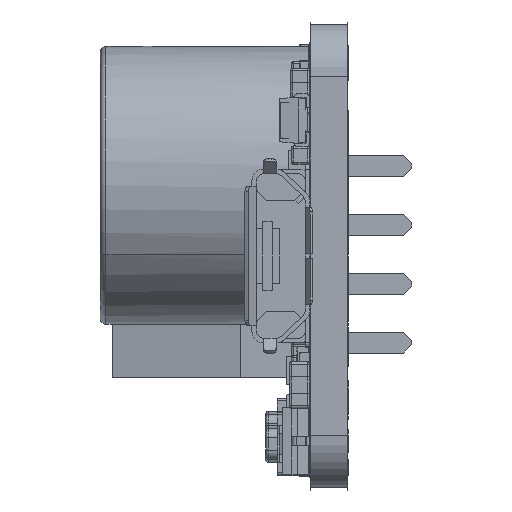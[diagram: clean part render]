
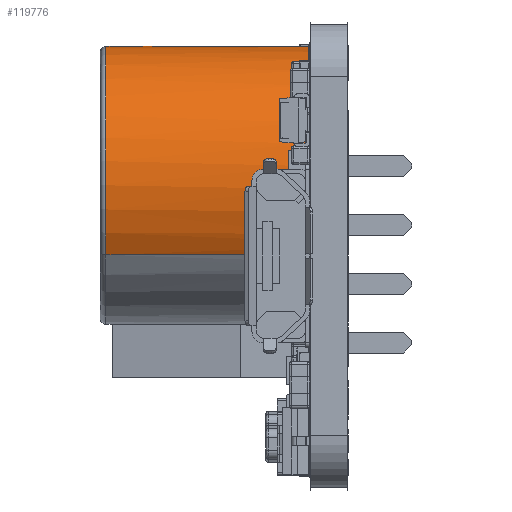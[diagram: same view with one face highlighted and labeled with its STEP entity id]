
A CAD part, left-side view. The second image highlights one B-rep face of the part: STEP entity #119776.
In plain terms, the highlighted cylindrical face has radius 6 mm (diameter 12 mm), a partial arc.
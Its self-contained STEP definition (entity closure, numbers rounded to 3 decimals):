
#16973 = AXIS2_PLACEMENT_3D ( 'NONE', #87449, #87451, #87453 ) ;
#39574 = VERTEX_POINT ( 'NONE', #190324 ) ;
#39593 = VERTEX_POINT ( 'NONE', #190352 ) ;
#47437 = EDGE_CURVE ( 'NONE', #49332, #49241, #188728, .T. ) ;
#47438 = EDGE_CURVE ( 'NONE', #49385, #49332, #188740, .T. ) ;
#47439 = EDGE_CURVE ( 'NONE', #49241, #49292, #188746, .T. ) ;
#47442 = EDGE_CURVE ( 'NONE', #49387, #49292, #188752, .T. ) ;
#47446 = EDGE_CURVE ( 'NONE', #49385, #49500, #188767, .T. ) ;
#47447 = EDGE_CURVE ( 'NONE', #49361, #49387, #188775, .T. ) ;
#47464 = EDGE_CURVE ( 'NONE', #49361, #39593, #188869, .T. ) ;
#47465 = EDGE_CURVE ( 'NONE', #39574, #39593, #188867, .T. ) ;
#47466 = EDGE_CURVE ( 'NONE', #49500, #39574, #188880, .T. ) ;
#49241 = VERTEX_POINT ( 'NONE', #195562 ) ;
#49292 = VERTEX_POINT ( 'NONE', #195613 ) ;
#49332 = VERTEX_POINT ( 'NONE', #195653 ) ;
#49361 = VERTEX_POINT ( 'NONE', #195682 ) ;
#49385 = VERTEX_POINT ( 'NONE', #195706 ) ;
#49387 = VERTEX_POINT ( 'NONE', #195708 ) ;
#49500 = VERTEX_POINT ( 'NONE', #195840 ) ;
#70632 = ORIENTED_EDGE ( 'NONE', *, *, #47446, .F. ) ;
#70633 = ORIENTED_EDGE ( 'NONE', *, *, #47438, .T. ) ;
#70634 = ORIENTED_EDGE ( 'NONE', *, *, #47437, .T. ) ;
#70635 = ORIENTED_EDGE ( 'NONE', *, *, #47439, .T. ) ;
#70636 = ORIENTED_EDGE ( 'NONE', *, *, #47442, .F. ) ;
#70637 = ORIENTED_EDGE ( 'NONE', *, *, #47447, .F. ) ;
#70638 = ORIENTED_EDGE ( 'NONE', *, *, #47464, .T. ) ;
#70639 = ORIENTED_EDGE ( 'NONE', *, *, #47465, .F. ) ;
#70640 = ORIENTED_EDGE ( 'NONE', *, *, #47466, .F. ) ;
#87449 = CARTESIAN_POINT ( 'NONE',  ( 0., 9.05, 0. ) ) ;
#87451 = DIRECTION ( 'NONE',  ( 0., -1., 0. ) ) ;
#87453 = DIRECTION ( 'NONE',  ( 0., 0., -1. ) ) ;
#102109 = FACE_OUTER_BOUND ( 'NONE', #198923, .T. ) ;
#102113 = CYLINDRICAL_SURFACE ( 'NONE', #16973, 6. ) ;
#119776 = ADVANCED_FACE ( 'NONE', ( #102109 ), #102113, .T. ) ;
#171197 = AXIS2_PLACEMENT_3D ( 'NONE', #194294, #194297, #194298 ) ;
#171201 = AXIS2_PLACEMENT_3D ( 'NONE', #194302, #194304, #194306 ) ;
#171214 = AXIS2_PLACEMENT_3D ( 'NONE', #194532, #194533, #194535 ) ;
#171218 = AXIS2_PLACEMENT_3D ( 'NONE', #194542, #194543, #194545 ) ;
#188728 = LINE ( 'NONE', #194286, #188734 ) ;
#188734 = VECTOR ( 'NONE', #194289, 1000. ) ;
#188740 = CIRCLE ( 'NONE', #171197, 6. ) ;
#188746 = CIRCLE ( 'NONE', #171201, 6. ) ;
#188752 = LINE ( 'NONE', #194347, #188756 ) ;
#188756 = VECTOR ( 'NONE', #194349, 1000. ) ;
#188767 = LINE ( 'NONE', #194379, #188772 ) ;
#188772 = VECTOR ( 'NONE', #194381, 1000. ) ;
#188775 = LINE ( 'NONE', #194384, #188778 ) ;
#188778 = VECTOR ( 'NONE', #194386, 1000. ) ;
#188867 = LINE ( 'NONE', #194537, #188872 ) ;
#188869 = CIRCLE ( 'NONE', #171214, 6. ) ;
#188872 = VECTOR ( 'NONE', #194539, 1000. ) ;
#188880 = CIRCLE ( 'NONE', #171218, 6. ) ;
#190324 = CARTESIAN_POINT ( 'NONE',  ( -1., 0.2, 5.916 ) ) ;
#190352 = CARTESIAN_POINT ( 'NONE',  ( -1., 0.05, 5.916 ) ) ;
#194286 = CARTESIAN_POINT ( 'NONE',  ( 0., 9.05, -6. ) ) ;
#194289 = DIRECTION ( 'NONE',  ( 0., -1., 0. ) ) ;
#194294 = CARTESIAN_POINT ( 'NONE',  ( 0., 8.8, 0. ) ) ;
#194297 = DIRECTION ( 'NONE',  ( 0., -1., 0. ) ) ;
#194298 = DIRECTION ( 'NONE',  ( 0., 0., 1. ) ) ;
#194302 = CARTESIAN_POINT ( 'NONE',  ( 0., 0.45, 0. ) ) ;
#194304 = DIRECTION ( 'NONE',  ( 0., 1., 0. ) ) ;
#194306 = DIRECTION ( 'NONE',  ( 0., 0., 1. ) ) ;
#194347 = CARTESIAN_POINT ( 'NONE',  ( -1., 9.05, -5.916 ) ) ;
#194349 = DIRECTION ( 'NONE',  ( 0., 1., 0. ) ) ;
#194379 = CARTESIAN_POINT ( 'NONE',  ( 0., 9.05, 6. ) ) ;
#194381 = DIRECTION ( 'NONE',  ( 0., -1., 0. ) ) ;
#194384 = CARTESIAN_POINT ( 'NONE',  ( -1., 9.05, -5.916 ) ) ;
#194386 = DIRECTION ( 'NONE',  ( 0., 1., 0. ) ) ;
#194532 = CARTESIAN_POINT ( 'NONE',  ( 0., 0.05, 0. ) ) ;
#194533 = DIRECTION ( 'NONE',  ( 0., 1., 0. ) ) ;
#194535 = DIRECTION ( 'NONE',  ( 0., 0., 1. ) ) ;
#194537 = CARTESIAN_POINT ( 'NONE',  ( -1., 9.05, 5.916 ) ) ;
#194539 = DIRECTION ( 'NONE',  ( 0., -1., 0. ) ) ;
#194542 = CARTESIAN_POINT ( 'NONE',  ( 0., 0.2, 0. ) ) ;
#194543 = DIRECTION ( 'NONE',  ( 0., -1., 0. ) ) ;
#194545 = DIRECTION ( 'NONE',  ( 0., 0., -1. ) ) ;
#195562 = CARTESIAN_POINT ( 'NONE',  ( 0., 0.45, -6. ) ) ;
#195613 = CARTESIAN_POINT ( 'NONE',  ( -1., 0.45, -5.916 ) ) ;
#195653 = CARTESIAN_POINT ( 'NONE',  ( 0., 8.8, -6. ) ) ;
#195682 = CARTESIAN_POINT ( 'NONE',  ( -1., 0.05, -5.916 ) ) ;
#195706 = CARTESIAN_POINT ( 'NONE',  ( 0., 8.8, 6. ) ) ;
#195708 = CARTESIAN_POINT ( 'NONE',  ( -1., 0.2, -5.916 ) ) ;
#195840 = CARTESIAN_POINT ( 'NONE',  ( 0., 0.2, 6. ) ) ;
#198923 = EDGE_LOOP ( 'NONE', ( #70632, #70633, #70634, #70635, #70636, #70637, #70638, #70639, #70640 ) ) ;
